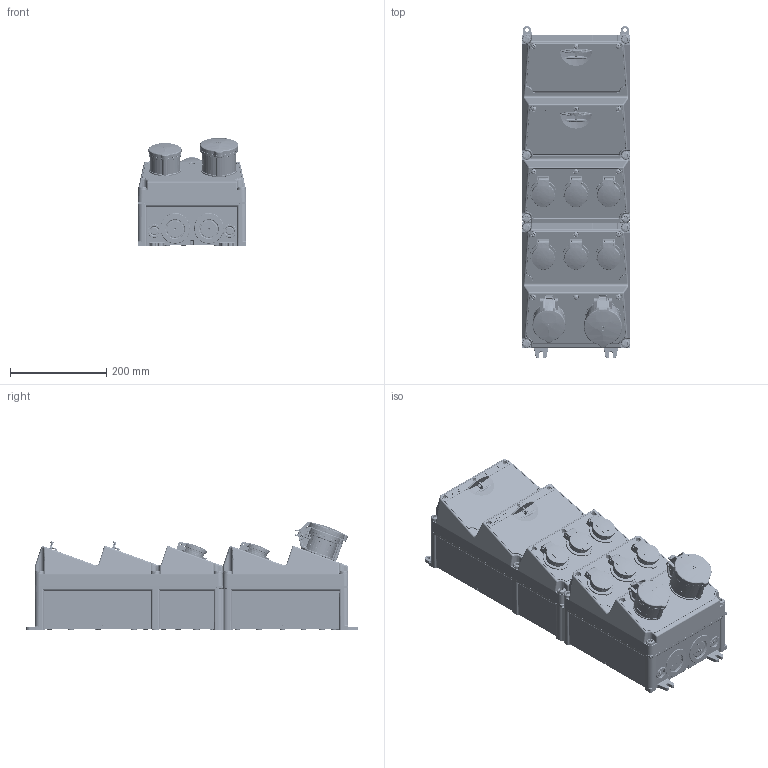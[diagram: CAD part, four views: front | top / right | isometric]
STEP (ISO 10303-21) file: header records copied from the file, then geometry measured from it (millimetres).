
FILE_DESCRIPTION((''),'2;1');
FILE_NAME('950004-2_ASM_1_ASM','2018-04-25T',('kremer'),('MENNEKES'),'PRO/ENGINEER BY PARAMETRIC TECHNOLOGY CORPORATION, 2015440','PRO/ENGINEER BY PARAMETRIC TECHNOLOGY CORPORATION, 2015440','');
FILE_SCHEMA(('AUTOMOTIVE_DESIGN { 1 0 10303 214 1 1 1 1 }'));
Products named in the file (15): 5-4_SW_O_GRAU_1; MANIFOLD_SOLID_BREP_336604; MANIFOLD_SOLID_BREP_424967; MANIFOLD_SOLID_BREP_425304; MANIFOLD_SOLID_BREP_427783; FI_4POL_4TE_1_ASM; LS_3POL_3TE_1; LS_1POL_1TE_1; MP_FEN10_44_OBEN_GRAU_1; MP_LEER_GRAU_1; BAUTEIL_DUMMY__1; AMAXX_CEE_32_5_44_ROT_1; AMAXX_CEE_16_5_44_ROT_1; AMAXX_SCHUKO_44_BLAU_1; 950004-2_ASM_1_ASM
Assembly tree (28 placements, depth 3):
  950004-2_ASM_1_ASM
    5-4_SW_O_GRAU_1
    FI_4POL_4TE_1_ASM
      MANIFOLD_SOLID_BREP_336604
      MANIFOLD_SOLID_BREP_424967
      MANIFOLD_SOLID_BREP_425304
      MANIFOLD_SOLID_BREP_427783
    LS_3POL_3TE_1  x2
    LS_1POL_1TE_1  x6
    MP_FEN10_44_OBEN_GRAU_1  x2
    MP_LEER_GRAU_1  x3
    BAUTEIL_DUMMY__1
    AMAXX_CEE_32_5_44_ROT_1
    AMAXX_CEE_16_5_44_ROT_1
    AMAXX_SCHUKO_44_BLAU_1  x6
Bounding box: 225 x 688.2 x 225.76 mm (x, y, z)
Volume: 16791745.1 mm3; surface area: 1801632.6 mm2
Topology: 26 solids, 26 shells, 20551 faces, 56883 edges, 36502 vertices
Faces by surface type: plane 9768, cylinder 5662, bspline 1934, torus 1668, sphere 549, cone 528, extrusion 442
Entity records: 633319 total; most frequent: CARTESIAN_POINT 200610, ORIENTED_EDGE 72528, DIRECTION 63221, EDGE_CURVE 36264, VERTEX_POINT 23063, AXIS2_PLACEMENT_3D 22524, PRESENTATION_STYLE_ASSIGNMENT 19898, STYLED_ITEM 18773
